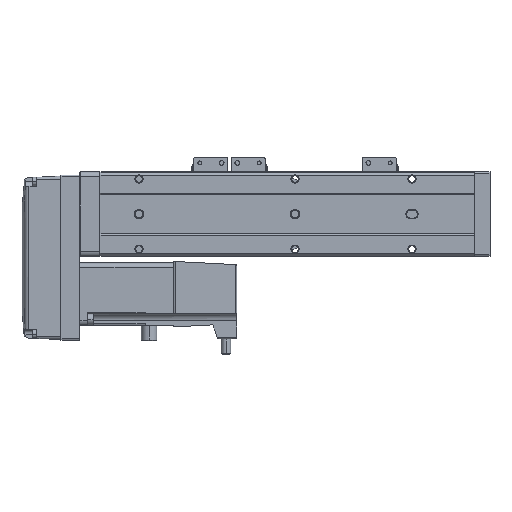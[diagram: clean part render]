
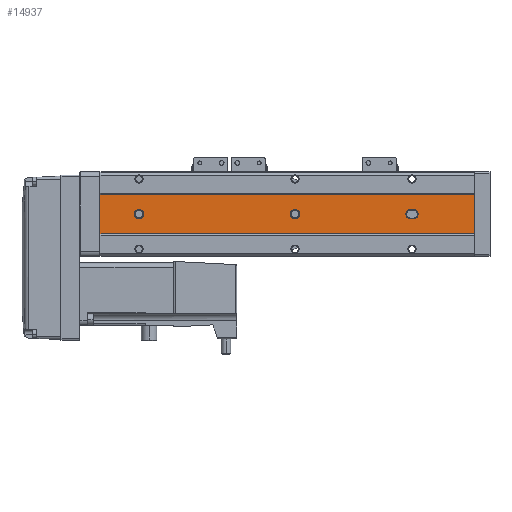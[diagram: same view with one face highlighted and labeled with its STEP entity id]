
A CAD part, front view. The second image highlights one B-rep face of the part: STEP entity #14937.
In plain terms, the highlighted planar face has unit normal (0, -1, 0).
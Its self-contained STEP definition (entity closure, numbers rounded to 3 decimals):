
#71 = CIRCLE ( 'NONE', #21144, 3. ) ;
#1427 = CARTESIAN_POINT ( 'NONE',  ( -45.681, -208.497, 0. ) ) ;
#1440 = LINE ( 'NONE', #26478, #24081 ) ;
#1480 = ORIENTED_EDGE ( 'NONE', *, *, #7575, .T. ) ;
#2616 = CARTESIAN_POINT ( 'NONE',  ( -70.681, -208.497, 240. ) ) ;
#2929 = VECTOR ( 'NONE', #13665, 1000. ) ;
#2976 = DIRECTION ( 'NONE',  ( 0., 1., 0. ) ) ;
#3021 = EDGE_LOOP ( 'NONE', ( #10977, #5893, #18482, #7571 ) ) ;
#3069 = CARTESIAN_POINT ( 'NONE',  ( -70.681, -208.497, 240. ) ) ;
#3612 = CARTESIAN_POINT ( 'NONE',  ( -45.681, -208.497, 240. ) ) ;
#3843 = CARTESIAN_POINT ( 'NONE',  ( -58.181, -208.497, 39. ) ) ;
#4085 = VERTEX_POINT ( 'NONE', #24164 ) ;
#4431 = VERTEX_POINT ( 'NONE', #3612 ) ;
#4841 = CARTESIAN_POINT ( 'NONE',  ( -70.681, -208.497, 240. ) ) ;
#4954 = CARTESIAN_POINT ( 'NONE',  ( -55.181, -208.497, 41. ) ) ;
#5106 = CARTESIAN_POINT ( 'NONE',  ( -70.681, -208.497, 0. ) ) ;
#5818 = FACE_BOUND ( 'NONE', #23257, .T. ) ;
#5844 = VERTEX_POINT ( 'NONE', #33142 ) ;
#5893 = ORIENTED_EDGE ( 'NONE', *, *, #34861, .F. ) ;
#6396 = AXIS2_PLACEMENT_3D ( 'NONE', #3843, #34308, #26045 ) ;
#6445 = DIRECTION ( 'NONE',  ( 0., 0., 1. ) ) ;
#6675 = FACE_BOUND ( 'NONE', #23132, .T. ) ;
#6850 = ORIENTED_EDGE ( 'NONE', *, *, #17449, .T. ) ;
#7169 = CARTESIAN_POINT ( 'NONE',  ( -58.181, -208.497, 118. ) ) ;
#7327 = EDGE_CURVE ( 'NONE', #35138, #4431, #34180, .T. ) ;
#7421 = CARTESIAN_POINT ( 'NONE',  ( -58.181, -208.497, 115. ) ) ;
#7571 = ORIENTED_EDGE ( 'NONE', *, *, #8091, .T. ) ;
#7575 = EDGE_CURVE ( 'NONE', #15512, #5844, #16426, .T. ) ;
#7786 = DIRECTION ( 'NONE',  ( 0., 0., 1. ) ) ;
#8091 = EDGE_CURVE ( 'NONE', #35138, #33197, #15987, .T. ) ;
#8462 = FACE_BOUND ( 'NONE', #19500, .T. ) ;
#8560 = VECTOR ( 'NONE', #8588, 1000. ) ;
#8588 = DIRECTION ( 'NONE',  ( 0., 0., -1. ) ) ;
#8806 = VECTOR ( 'NONE', #12079, 1000. ) ;
#10977 = ORIENTED_EDGE ( 'NONE', *, *, #27285, .T. ) ;
#11087 = EDGE_CURVE ( 'NONE', #4085, #27534, #18832, .T. ) ;
#11125 = LINE ( 'NONE', #11743, #18457 ) ;
#11286 = DIRECTION ( 'NONE',  ( 0., 0., 1. ) ) ;
#11541 = ORIENTED_EDGE ( 'NONE', *, *, #14757, .T. ) ;
#11743 = CARTESIAN_POINT ( 'NONE',  ( -55.181, -208.497, 240. ) ) ;
#12079 = DIRECTION ( 'NONE',  ( 0., 0., 1. ) ) ;
#13152 = DIRECTION ( 'NONE',  ( 1., 0., 0. ) ) ;
#13226 = DIRECTION ( 'NONE',  ( 0., 1., 0. ) ) ;
#13665 = DIRECTION ( 'NONE',  ( 0., 0., -1. ) ) ;
#13963 = AXIS2_PLACEMENT_3D ( 'NONE', #32579, #30045, #27353 ) ;
#14259 = CARTESIAN_POINT ( 'NONE',  ( -61.181, -208.497, 41. ) ) ;
#14757 = EDGE_CURVE ( 'NONE', #27534, #16993, #29269, .T. ) ;
#14937 = ADVANCED_FACE ( 'NONE', ( #8462, #5818, #6675, #34041 ), #28153, .F. ) ;
#15295 = AXIS2_PLACEMENT_3D ( 'NONE', #17780, #20574, #6445 ) ;
#15512 = VERTEX_POINT ( 'NONE', #22119 ) ;
#15780 = CARTESIAN_POINT ( 'NONE',  ( -58.181, -208.497, 41. ) ) ;
#15987 = LINE ( 'NONE', #2616, #8560 ) ;
#16426 = CIRCLE ( 'NONE', #6396, 3. ) ;
#16853 = CARTESIAN_POINT ( 'NONE',  ( -58.181, -208.497, 212. ) ) ;
#16947 = VERTEX_POINT ( 'NONE', #1427 ) ;
#16966 = CARTESIAN_POINT ( 'NONE',  ( -58.181, -208.497, 215. ) ) ;
#16993 = VERTEX_POINT ( 'NONE', #4954 ) ;
#17074 = EDGE_CURVE ( 'NONE', #5844, #4085, #71, .T. ) ;
#17125 = CIRCLE ( 'NONE', #15295, 3. ) ;
#17226 = CIRCLE ( 'NONE', #33106, 3. ) ;
#17449 = EDGE_CURVE ( 'NONE', #19540, #28787, #25652, .T. ) ;
#17716 = CARTESIAN_POINT ( 'NONE',  ( -58.181, -208.497, 112. ) ) ;
#17780 = CARTESIAN_POINT ( 'NONE',  ( -58.181, -208.497, 115. ) ) ;
#18457 = VECTOR ( 'NONE', #34018, 1000. ) ;
#18482 = ORIENTED_EDGE ( 'NONE', *, *, #7327, .F. ) ;
#18537 = EDGE_CURVE ( 'NONE', #23476, #20962, #29504, .T. ) ;
#18832 = LINE ( 'NONE', #33643, #8806 ) ;
#19500 = EDGE_LOOP ( 'NONE', ( #33176, #35420 ) ) ;
#19540 = VERTEX_POINT ( 'NONE', #7169 ) ;
#20574 = DIRECTION ( 'NONE',  ( 0., 1., 0. ) ) ;
#20962 = VERTEX_POINT ( 'NONE', #16853 ) ;
#21119 = ORIENTED_EDGE ( 'NONE', *, *, #17074, .T. ) ;
#21144 = AXIS2_PLACEMENT_3D ( 'NONE', #22487, #25258, #25032 ) ;
#22119 = CARTESIAN_POINT ( 'NONE',  ( -55.181, -208.497, 39. ) ) ;
#22487 = CARTESIAN_POINT ( 'NONE',  ( -58.181, -208.497, 39. ) ) ;
#22611 = DIRECTION ( 'NONE',  ( 0., 1., 0. ) ) ;
#22694 = AXIS2_PLACEMENT_3D ( 'NONE', #3069, #22611, #25273 ) ;
#22987 = ORIENTED_EDGE ( 'NONE', *, *, #25735, .T. ) ;
#23132 = EDGE_LOOP ( 'NONE', ( #25152, #1480, #21119, #25141, #11541 ) ) ;
#23257 = EDGE_LOOP ( 'NONE', ( #22987, #6850 ) ) ;
#23476 = VERTEX_POINT ( 'NONE', #25741 ) ;
#24081 = VECTOR ( 'NONE', #29386, 1000. ) ;
#24164 = CARTESIAN_POINT ( 'NONE',  ( -61.181, -208.497, 39. ) ) ;
#24920 = EDGE_CURVE ( 'NONE', #16993, #15512, #11125, .T. ) ;
#25003 = CARTESIAN_POINT ( 'NONE',  ( -45.681, -208.497, 240. ) ) ;
#25032 = DIRECTION ( 'NONE',  ( 0., 0., 1. ) ) ;
#25141 = ORIENTED_EDGE ( 'NONE', *, *, #11087, .T. ) ;
#25152 = ORIENTED_EDGE ( 'NONE', *, *, #24920, .T. ) ;
#25258 = DIRECTION ( 'NONE',  ( 0., 1., 0. ) ) ;
#25273 = DIRECTION ( 'NONE',  ( 0., 0., 1. ) ) ;
#25652 = CIRCLE ( 'NONE', #30392, 3. ) ;
#25735 = EDGE_CURVE ( 'NONE', #28787, #19540, #17125, .T. ) ;
#25741 = CARTESIAN_POINT ( 'NONE',  ( -58.181, -208.497, 218. ) ) ;
#26045 = DIRECTION ( 'NONE',  ( 0., 0., 1. ) ) ;
#26478 = CARTESIAN_POINT ( 'NONE',  ( -70.681, -208.497, 0. ) ) ;
#26799 = VECTOR ( 'NONE', #13152, 1000. ) ;
#26864 = CARTESIAN_POINT ( 'NONE',  ( -70.681, -208.497, 240. ) ) ;
#27285 = EDGE_CURVE ( 'NONE', #33197, #16947, #1440, .T. ) ;
#27353 = DIRECTION ( 'NONE',  ( 0., 0., 1. ) ) ;
#27534 = VERTEX_POINT ( 'NONE', #14259 ) ;
#28153 = PLANE ( 'NONE',  #22694 ) ;
#28787 = VERTEX_POINT ( 'NONE', #17716 ) ;
#29269 = CIRCLE ( 'NONE', #32894, 3. ) ;
#29386 = DIRECTION ( 'NONE',  ( 1., 0., 0. ) ) ;
#29504 = CIRCLE ( 'NONE', #13963, 3. ) ;
#29849 = DIRECTION ( 'NONE',  ( 0., 1., 0. ) ) ;
#30045 = DIRECTION ( 'NONE',  ( 0., 1., 0. ) ) ;
#30263 = DIRECTION ( 'NONE',  ( 0., 0., 1. ) ) ;
#30392 = AXIS2_PLACEMENT_3D ( 'NONE', #7421, #29849, #7786 ) ;
#31836 = EDGE_CURVE ( 'NONE', #20962, #23476, #17226, .T. ) ;
#32579 = CARTESIAN_POINT ( 'NONE',  ( -58.181, -208.497, 215. ) ) ;
#32894 = AXIS2_PLACEMENT_3D ( 'NONE', #15780, #13226, #30263 ) ;
#33106 = AXIS2_PLACEMENT_3D ( 'NONE', #16966, #2976, #11286 ) ;
#33142 = CARTESIAN_POINT ( 'NONE',  ( -58.181, -208.497, 36. ) ) ;
#33176 = ORIENTED_EDGE ( 'NONE', *, *, #31836, .T. ) ;
#33197 = VERTEX_POINT ( 'NONE', #5106 ) ;
#33320 = LINE ( 'NONE', #25003, #2929 ) ;
#33643 = CARTESIAN_POINT ( 'NONE',  ( -61.181, -208.497, 240. ) ) ;
#34018 = DIRECTION ( 'NONE',  ( 0., 0., -1. ) ) ;
#34041 = FACE_OUTER_BOUND ( 'NONE', #3021, .T. ) ;
#34180 = LINE ( 'NONE', #4841, #26799 ) ;
#34308 = DIRECTION ( 'NONE',  ( 0., 1., 0. ) ) ;
#34861 = EDGE_CURVE ( 'NONE', #4431, #16947, #33320, .T. ) ;
#35138 = VERTEX_POINT ( 'NONE', #26864 ) ;
#35420 = ORIENTED_EDGE ( 'NONE', *, *, #18537, .T. ) ;
